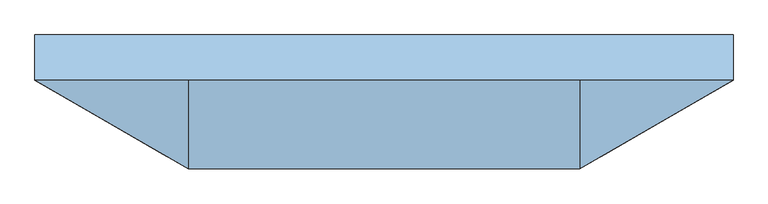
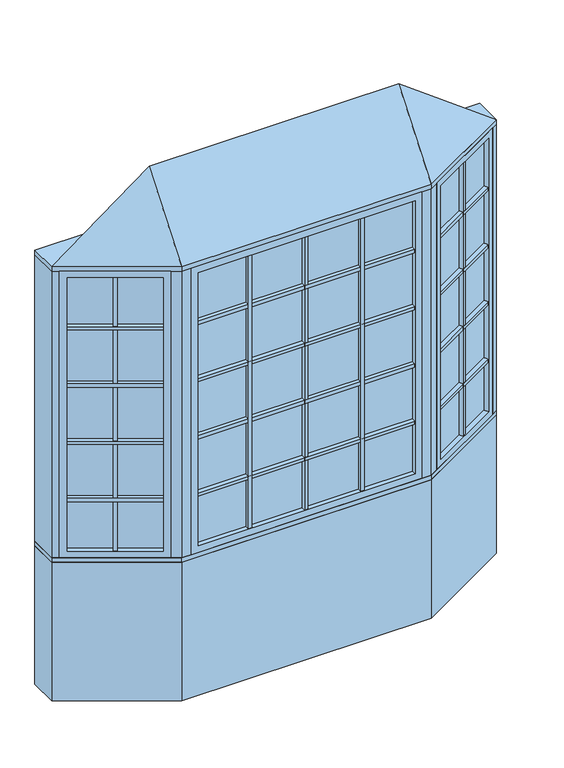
"""IFC4 building model written with IfcOpenShell, lengths in millimetres: window geometry, Pollard_Windows_Tudor Casement Bows and Bays : AML-BAY 30 AFR0616-12-500_GC."""

from ifc_helpers import new_model, si_unit, frame, origin, origin_with_axes, place, context, project, spatial, polyline, outline, extrude, faceted_brep, source, transform, mapped, element, save


def window_4662dd5e(model_context):
    return source(origin(), model_context, "Body", "SolidModel", [
        extrude(outline(polyline([(732.2305346, -327.3537343), (721.2305346, -308.3011754), (1102.1135794, -88.3982469), (1113.1135794, -107.4508058), (732.2305346, -327.3537343)])), frame((0.0, 0.0, 1110.998), z_axis=(0.0, 0.0, 1.0), x_axis=(1.0, 0.0, 0.0)), (0.0, 0.0, 1.0), 18.0),
        extrude(outline(polyline([(718.6905346, -303.9017664), (707.6905346, -284.8492075), (1088.5735794, -64.946279), (1099.5735794, -83.9988379), (718.6905346, -303.9017664)])), frame((0.0, 0.0, 1110.998), z_axis=(0.0, 0.0, 1.0), x_axis=(1.0, 0.0, 0.0)), (0.0, 0.0, 1.0), 18.0),
        extrude(outline(polyline([(732.2305346, -327.3537343), (721.2305346, -308.3011754), (1102.1135794, -88.3982469), (1113.1135794, -107.4508058), (732.2305346, -327.3537343)])), frame((0.0, 0.0, 1430.998), z_axis=(0.0, 0.0, 1.0), x_axis=(1.0, 0.0, 0.0)), (0.0, 0.0, 1.0), 18.0),
        extrude(outline(polyline([(718.6905346, -303.9017664), (707.6905346, -284.8492075), (1088.5735794, -64.946279), (1099.5735794, -83.9988379), (718.6905346, -303.9017664)])), frame((0.0, 0.0, 1430.998), z_axis=(0.0, 0.0, 1.0), x_axis=(1.0, 0.0, 0.0)), (0.0, 0.0, 1.0), 18.0),
        extrude(outline(polyline([(732.2305346, -327.3537343), (721.2305346, -308.3011754), (1102.1135794, -88.3982469), (1113.1135794, -107.4508058), (732.2305346, -327.3537343)])), frame((0.0, 0.0, 1750.998), z_axis=(0.0, 0.0, 1.0), x_axis=(1.0, 0.0, 0.0)), (0.0, 0.0, 1.0), 18.0),
        extrude(outline(polyline([(718.6905346, -303.9017664), (707.6905346, -284.8492075), (1088.5735794, -64.946279), (1099.5735794, -83.9988379), (718.6905346, -303.9017664)])), frame((0.0, 0.0, 1750.998), z_axis=(0.0, 0.0, 1.0), x_axis=(1.0, 0.0, 0.0)), (0.0, 0.0, 1.0), 18.0),
        extrude(outline(polyline([(732.2305346, -327.3537343), (721.2305346, -308.3011754), (1102.1135794, -88.3982469), (1113.1135794, -107.4508058), (732.2305346, -327.3537343)])), frame((0.0, 0.0, 2070.998), z_axis=(0.0, 0.0, 1.0), x_axis=(1.0, 0.0, 0.0)), (0.0, 0.0, 1.0), 18.0),
        extrude(outline(polyline([(718.6905346, -303.9017664), (707.6905346, -284.8492075), (1088.5735794, -64.946279), (1099.5735794, -83.9988379), (718.6905346, -303.9017664)])), frame((0.0, 0.0, 2070.998), z_axis=(0.0, 0.0, 1.0), x_axis=(1.0, 0.0, 0.0)), (0.0, 0.0, 1.0), 18.0),
        extrude(outline(polyline([(919.4662856, -193.8497112), (930.4662856, -212.9022701), (914.8778284, -221.9022701), (903.8778284, -202.8497112), (919.4662856, -193.8497112)])), frame((0.0, 0.0, 835.8628), z_axis=(0.0, 0.0, 1.0), x_axis=(1.0, 0.0, 0.0)), (0.0, 0.0, 1.0), 1528.2704),
        extrude(outline(polyline([(916.9262856, -189.4503021), (901.3378284, -198.4503021), (890.3378284, -179.3977432), (905.9262856, -170.3977432), (916.9262856, -189.4503021)])), frame((0.0, 0.0, 835.8628), z_axis=(0.0, 0.0, 1.0), x_axis=(1.0, 0.0, 0.0)), (0.0, 0.0, 1.0), 1528.2704),
        extrude(outline(polyline([(1113.112102, -82.0482469), (710.2320119, -314.6511754), (707.6920119, -310.2517664), (1110.572102, -77.6488379), (1113.112102, -82.0482469)])), frame((0.0, 0.0, 823.1628), z_axis=(0.0, 0.0, 1.0), x_axis=(1.0, 0.0, 0.0)), (0.0, 0.0, 1.0), 1553.6704),
        faceted_brep([(1102.1135794, -88.3982469, 835.8628), (1114.8135794, -110.3952922, 835.8628), (1114.8135794, -110.3952922, 2364.1332), (1102.1135794, -88.3982469, 2364.1332), (1110.572102, -77.6488379, 823.1628), (1113.112102, -82.0482469, 823.1628), (1113.112102, -82.0482469, 2376.8332), (1110.572102, -77.6488379, 2376.8332), (1086.8735794, -62.0017926, 835.8628), (1099.5735794, -83.9988379, 835.8628), (1099.5735794, -83.9988379, 2364.1332), (1086.8735794, -62.0017926, 2364.1332), (1145.8734073, -92.4628922, 799.998), (1117.9334073, -44.0693926, 799.998), (1117.9334073, -44.0693926, 2399.998), (1145.8734073, -92.4628922, 2399.998), (733.9305346, -330.2982207, 2364.1332), (721.2305346, -308.3011754, 2364.1332), (710.2320119, -314.6511754, 2376.8332), (707.6920119, -310.2517664, 2376.8332), (718.6905346, -303.9017664, 2364.1332), (705.9905346, -281.9047211, 2364.1332), (674.9307067, -299.8371211, 2399.998), (702.8707067, -348.2306207, 2399.998), (733.9305346, -330.2982207, 835.8628), (721.2305346, -308.3011754, 835.8628), (710.2320119, -314.6511754, 823.1628), (707.6920119, -310.2517664, 823.1628), (718.6905346, -303.9017664, 835.8628), (705.9905346, -281.9047211, 835.8628), (674.9307067, -299.8371211, 799.998), (702.8707067, -348.2306207, 799.998)], [[[0, 1, 2, 3]], [[4, 5, 6, 7]], [[8, 9, 10, 11]], [[12, 13, 14, 15]], [[3, 2, 16, 17]], [[7, 6, 18, 19]], [[11, 10, 20, 21]], [[15, 14, 22, 23]], [[17, 16, 24, 25]], [[19, 18, 26, 27]], [[21, 20, 28, 29]], [[23, 22, 30, 31]], [[25, 24, 1, 0]], [[5, 26, 18, 6], [3, 17, 25, 0]], [[27, 26, 5, 4]], [[7, 19, 27, 4], [9, 28, 20, 10]], [[29, 28, 9, 8]], [[13, 30, 22, 14], [11, 21, 29, 8]], [[31, 30, 13, 12]], [[15, 23, 31, 12], [1, 24, 16, 2]]]),
        extrude(outline(polyline([(306.7024182, -347.8306207), (306.7024182, -369.8306207), (288.7024182, -369.8306207), (288.7024182, -347.8306207), (306.7024182, -347.8306207)])), frame((0.0, 0.0, 835.8628), z_axis=(0.0, 0.0, 1.0), x_axis=(1.0, 0.0, 0.0)), (0.0, 0.0, 1.0), 1528.2704),
        extrude(outline(polyline([(306.7024182, -342.7506207), (288.7024182, -342.7506207), (288.7024182, -320.7506207), (306.7024182, -320.7506207), (306.7024182, -342.7506207)])), frame((0.0, 0.0, 835.8628), z_axis=(0.0, 0.0, 1.0), x_axis=(1.0, 0.0, 0.0)), (0.0, 0.0, 1.0), 1528.2704),
        extrude(outline(polyline([(-288.7024182, -347.8306207), (-288.7024182, -369.8306207), (-306.7024182, -369.8306207), (-306.7024182, -347.8306207), (-288.7024182, -347.8306207)])), frame((0.0, 0.0, 835.8628), z_axis=(0.0, 0.0, 1.0), x_axis=(1.0, 0.0, 0.0)), (0.0, 0.0, 1.0), 1528.2704),
        extrude(outline(polyline([(-288.7024182, -342.7506207), (-306.7024182, -342.7506207), (-306.7024182, -320.7506207), (-288.7024182, -320.7506207), (-288.7024182, -342.7506207)])), frame((0.0, 0.0, 835.8628), z_axis=(0.0, 0.0, 1.0), x_axis=(1.0, 0.0, 0.0)), (0.0, 0.0, 1.0), 1528.2704),
        extrude(outline(polyline([(-573.7046365, -369.8306207), (-573.7046365, -347.8306207), (573.7046365, -347.8306207), (573.7046365, -369.8306207), (-573.7046365, -369.8306207)])), frame((0.0, 0.0, 1110.998), z_axis=(0.0, 0.0, 1.0), x_axis=(1.0, 0.0, 0.0)), (0.0, 0.0, 1.0), 18.0),
        extrude(outline(polyline([(-573.7046365, -342.7506207), (-573.7046365, -320.7506207), (573.7046365, -320.7506207), (573.7046365, -342.7506207), (-573.7046365, -342.7506207)])), frame((0.0, 0.0, 1110.998), z_axis=(0.0, 0.0, 1.0), x_axis=(1.0, 0.0, 0.0)), (0.0, 0.0, 1.0), 18.0),
        extrude(outline(polyline([(-573.7046365, -369.8306207), (-573.7046365, -347.8306207), (573.7046365, -347.8306207), (573.7046365, -369.8306207), (-573.7046365, -369.8306207)])), frame((0.0, 0.0, 1430.998), z_axis=(0.0, 0.0, 1.0), x_axis=(1.0, 0.0, 0.0)), (0.0, 0.0, 1.0), 18.0),
        extrude(outline(polyline([(-573.7046365, -342.7506207), (-573.7046365, -320.7506207), (573.7046365, -320.7506207), (573.7046365, -342.7506207), (-573.7046365, -342.7506207)])), frame((0.0, 0.0, 1430.998), z_axis=(0.0, 0.0, 1.0), x_axis=(1.0, 0.0, 0.0)), (0.0, 0.0, 1.0), 18.0),
        extrude(outline(polyline([(-573.7046365, -369.8306207), (-573.7046365, -347.8306207), (573.7046365, -347.8306207), (573.7046365, -369.8306207), (-573.7046365, -369.8306207)])), frame((0.0, 0.0, 1750.998), z_axis=(0.0, 0.0, 1.0), x_axis=(1.0, 0.0, 0.0)), (0.0, 0.0, 1.0), 18.0),
        extrude(outline(polyline([(-573.7046365, -342.7506207), (-573.7046365, -320.7506207), (573.7046365, -320.7506207), (573.7046365, -342.7506207), (-573.7046365, -342.7506207)])), frame((0.0, 0.0, 1750.998), z_axis=(0.0, 0.0, 1.0), x_axis=(1.0, 0.0, 0.0)), (0.0, 0.0, 1.0), 18.0),
        extrude(outline(polyline([(-1113.1135794, -107.4508058), (-1102.1135794, -88.3982469), (-721.2305346, -308.3011754), (-732.2305346, -327.3537343), (-1113.1135794, -107.4508058)])), frame((0.0, 0.0, 1110.998), z_axis=(0.0, 0.0, 1.0), x_axis=(1.0, 0.0, 0.0)), (0.0, 0.0, 1.0), 18.0),
        extrude(outline(polyline([(-1099.5735794, -83.9988379), (-1088.5735794, -64.946279), (-707.6905346, -284.8492075), (-718.6905346, -303.9017664), (-1099.5735794, -83.9988379)])), frame((0.0, 0.0, 1110.998), z_axis=(0.0, 0.0, 1.0), x_axis=(1.0, 0.0, 0.0)), (0.0, 0.0, 1.0), 18.0),
        extrude(outline(polyline([(-1113.1135794, -107.4508058), (-1102.1135794, -88.3982469), (-721.2305346, -308.3011754), (-732.2305346, -327.3537343), (-1113.1135794, -107.4508058)])), frame((0.0, 0.0, 1430.998), z_axis=(0.0, 0.0, 1.0), x_axis=(1.0, 0.0, 0.0)), (0.0, 0.0, 1.0), 18.0),
        extrude(outline(polyline([(-1099.5735794, -83.9988379), (-1088.5735794, -64.946279), (-707.6905346, -284.8492075), (-718.6905346, -303.9017664), (-1099.5735794, -83.9988379)])), frame((0.0, 0.0, 1430.998), z_axis=(0.0, 0.0, 1.0), x_axis=(1.0, 0.0, 0.0)), (0.0, 0.0, 1.0), 18.0),
        extrude(outline(polyline([(-1113.1135794, -107.4508058), (-1102.1135794, -88.3982469), (-721.2305346, -308.3011754), (-732.2305346, -327.3537343), (-1113.1135794, -107.4508058)])), frame((0.0, 0.0, 1750.998), z_axis=(0.0, 0.0, 1.0), x_axis=(1.0, 0.0, 0.0)), (0.0, 0.0, 1.0), 18.0),
        extrude(outline(polyline([(-1099.5735794, -83.9988379), (-1088.5735794, -64.946279), (-707.6905346, -284.8492075), (-718.6905346, -303.9017664), (-1099.5735794, -83.9988379)])), frame((0.0, 0.0, 1750.998), z_axis=(0.0, 0.0, 1.0), x_axis=(1.0, 0.0, 0.0)), (0.0, 0.0, 1.0), 18.0),
        extrude(outline(polyline([(-1113.1135794, -107.4508058), (-1102.1135794, -88.3982469), (-721.2305346, -308.3011754), (-732.2305346, -327.3537343), (-1113.1135794, -107.4508058)])), frame((0.0, 0.0, 2070.998), z_axis=(0.0, 0.0, 1.0), x_axis=(1.0, 0.0, 0.0)), (0.0, 0.0, 1.0), 18.0),
        extrude(outline(polyline([(-1099.5735794, -83.9988379), (-1088.5735794, -64.946279), (-707.6905346, -284.8492075), (-718.6905346, -303.9017664), (-1099.5735794, -83.9988379)])), frame((0.0, 0.0, 2070.998), z_axis=(0.0, 0.0, 1.0), x_axis=(1.0, 0.0, 0.0)), (0.0, 0.0, 1.0), 18.0),
        extrude(outline(polyline([(-573.7046365, -369.8306207), (-573.7046365, -347.8306207), (573.7046365, -347.8306207), (573.7046365, -369.8306207), (-573.7046365, -369.8306207)])), frame((0.0, 0.0, 2070.998), z_axis=(0.0, 0.0, 1.0), x_axis=(1.0, 0.0, 0.0)), (0.0, 0.0, 1.0), 18.0),
        extrude(outline(polyline([(-573.7046365, -342.7506207), (-573.7046365, -320.7506207), (573.7046365, -320.7506207), (573.7046365, -342.7506207), (-573.7046365, -342.7506207)])), frame((0.0, 0.0, 2070.998), z_axis=(0.0, 0.0, 1.0), x_axis=(1.0, 0.0, 0.0)), (0.0, 0.0, 1.0), 18.0),
        extrude(outline(polyline([(-903.8778284, -202.8497112), (-914.8778284, -221.9022701), (-930.4662856, -212.9022701), (-919.4662856, -193.8497112), (-903.8778284, -202.8497112)])), frame((0.0, 0.0, 835.8628), z_axis=(0.0, 0.0, 1.0), x_axis=(1.0, 0.0, 0.0)), (0.0, 0.0, 1.0), 1528.2704),
        extrude(outline(polyline([(-901.3378284, -198.4503021), (-916.9262856, -189.4503021), (-905.9262856, -170.3977432), (-890.3378284, -179.3977432), (-901.3378284, -198.4503021)])), frame((0.0, 0.0, 835.8628), z_axis=(0.0, 0.0, 1.0), x_axis=(1.0, 0.0, 0.0)), (0.0, 0.0, 1.0), 1528.2704),
        extrude(outline(polyline([(9.0, -347.8306207), (9.0, -369.8306207), (-9.0, -369.8306207), (-9.0, -347.8306207), (9.0, -347.8306207)])), frame((0.0, 0.0, 835.8628), z_axis=(0.0, 0.0, 1.0), x_axis=(1.0, 0.0, 0.0)), (0.0, 0.0, 1.0), 1528.2704),
        extrude(outline(polyline([(9.0, -342.7506207), (-9.0, -342.7506207), (-9.0, -320.7506207), (9.0, -320.7506207), (9.0, -342.7506207)])), frame((0.0, 0.0, 835.8628), z_axis=(0.0, 0.0, 1.0), x_axis=(1.0, 0.0, 0.0)), (0.0, 0.0, 1.0), 1528.2704),
        extrude(outline(polyline([(-710.2320119, -314.6511754), (-1113.112102, -82.0482469), (-1110.572102, -77.6488379), (-707.6920119, -310.2517664), (-710.2320119, -314.6511754)])), frame((0.0, 0.0, 823.1628), z_axis=(0.0, 0.0, 1.0), x_axis=(1.0, 0.0, 0.0)), (0.0, 0.0, 1.0), 1553.6704),
        faceted_brep([(-718.6905346, -303.9017664, 2364.1332), (-705.9905346, -281.9047211, 2364.1332), (-705.9905346, -281.9047211, 835.8628), (-718.6905346, -303.9017664, 835.8628), (-710.2320119, -314.6511754, 2376.8332), (-707.6920119, -310.2517664, 2376.8332), (-707.6920119, -310.2517664, 823.1628), (-710.2320119, -314.6511754, 823.1628), (-733.9305346, -330.2982207, 2364.1332), (-721.2305346, -308.3011754, 2364.1332), (-721.2305346, -308.3011754, 835.8628), (-733.9305346, -330.2982207, 835.8628), (-674.9307067, -299.8371211, 2399.998), (-702.8707067, -348.2306207, 2399.998), (-702.8707067, -348.2306207, 799.998), (-674.9307067, -299.8371211, 799.998), (-1086.8735794, -62.0017926, 835.8628), (-1099.5735794, -83.9988379, 835.8628), (-1110.572102, -77.6488379, 823.1628), (-1113.112102, -82.0482469, 823.1628), (-1102.1135794, -88.3982469, 835.8628), (-1114.8135794, -110.3952922, 835.8628), (-1145.8734073, -92.4628922, 799.998), (-1117.9334073, -44.0693926, 799.998), (-1086.8735794, -62.0017926, 2364.1332), (-1099.5735794, -83.9988379, 2364.1332), (-1110.572102, -77.6488379, 2376.8332), (-1113.112102, -82.0482469, 2376.8332), (-1102.1135794, -88.3982469, 2364.1332), (-1114.8135794, -110.3952922, 2364.1332), (-1145.8734073, -92.4628922, 2399.998), (-1117.9334073, -44.0693926, 2399.998)], [[[0, 1, 2, 3]], [[4, 5, 6, 7]], [[8, 9, 10, 11]], [[12, 13, 14, 15]], [[3, 2, 16, 17]], [[7, 6, 18, 19]], [[11, 10, 20, 21]], [[15, 14, 22, 23]], [[17, 16, 24, 25]], [[19, 18, 26, 27]], [[21, 20, 28, 29]], [[23, 22, 30, 31]], [[15, 23, 31, 12], [1, 24, 16, 2]], [[25, 24, 1, 0]], [[5, 26, 18, 6], [3, 17, 25, 0]], [[27, 26, 5, 4]], [[7, 19, 27, 4], [9, 28, 20, 10]], [[29, 28, 9, 8]], [[13, 30, 22, 14], [11, 21, 29, 8]], [[31, 30, 13, 12]]]),
        extrude(outline(polyline([(586.4046365, -347.8306207), (-586.4046365, -347.8306207), (-586.4046365, -342.7506207), (586.4046365, -342.7506207), (586.4046365, -347.8306207)])), frame((0.0, 0.0, 823.1628), z_axis=(0.0, 0.0, 1.0), x_axis=(1.0, 0.0, 0.0)), (0.0, 0.0, 1.0), 1553.6704),
        faceted_brep([(573.7046365, -347.8306207, 835.8628), (573.7046365, -373.2306207, 835.8628), (573.7046365, -373.2306207, 2364.1332), (573.7046365, -347.8306207, 2364.1332), (586.4046365, -342.7506207, 823.1628), (586.4046365, -347.8306207, 823.1628), (586.4046365, -347.8306207, 2376.8332), (586.4046365, -342.7506207, 2376.8332), (573.7046365, -317.3506207, 835.8628), (573.7046365, -342.7506207, 835.8628), (573.7046365, -342.7506207, 2364.1332), (573.7046365, -317.3506207, 2364.1332), (609.5694365, -373.2306207, 799.998), (609.5694365, -317.3506207, 799.998), (609.5694365, -317.3506207, 2399.998), (609.5694365, -373.2306207, 2399.998), (-573.7046365, -373.2306207, 2364.1332), (-573.7046365, -347.8306207, 2364.1332), (-586.4046365, -347.8306207, 2376.8332), (-586.4046365, -342.7506207, 2376.8332), (-573.7046365, -342.7506207, 2364.1332), (-573.7046365, -317.3506207, 2364.1332), (-609.5694365, -317.3506207, 2399.998), (-609.5694365, -373.2306207, 2399.998), (-573.7046365, -373.2306207, 835.8628), (-573.7046365, -347.8306207, 835.8628), (-586.4046365, -347.8306207, 823.1628), (-586.4046365, -342.7506207, 823.1628), (-573.7046365, -342.7506207, 835.8628), (-573.7046365, -317.3506207, 835.8628), (-609.5694365, -317.3506207, 799.998), (-609.5694365, -373.2306207, 799.998)], [[[0, 1, 2, 3]], [[4, 5, 6, 7]], [[8, 9, 10, 11]], [[12, 13, 14, 15]], [[3, 2, 16, 17]], [[7, 6, 18, 19]], [[11, 10, 20, 21]], [[15, 14, 22, 23]], [[17, 16, 24, 25]], [[19, 18, 26, 27]], [[21, 20, 28, 29]], [[23, 22, 30, 31]], [[15, 23, 31, 12], [1, 24, 16, 2]], [[25, 24, 1, 0]], [[5, 26, 18, 6], [3, 17, 25, 0]], [[27, 26, 5, 4]], [[7, 19, 27, 4], [9, 28, 20, 10]], [[29, 28, 9, 8]], [[13, 30, 22, 14], [11, 21, 29, 8]], [[31, 30, 13, 12]]]),
        faceted_brep([(1176.5, -74.7806207, 2425.398), (659.5694365, -373.2306207, 2425.398), (-659.5694365, -373.2306207, 2425.398), (-1176.5, -74.7806207, 2425.398), (-659.5694365, -74.7806207, 2806.398), (659.5694365, -74.7806207, 2806.398)], [[[0, 1, 2, 3]], [[3, 2, 4]], [[2, 1, 5, 4]], [[1, 0, 5]], [[0, 3, 4, 5]]]),
        extrude(outline(polyline([(-1176.5, 77.6193793), (1176.5, 77.6193793), (1176.5, -74.7806207), (659.5694365, -373.2306207), (-659.5694365, -373.2306207), (-1176.5, -74.7806207), (-1176.5, 77.6193793)])), frame((0.0, 0.0, 2399.998), z_axis=(0.0, 0.0, 1.0), x_axis=(1.0, 0.0, 0.0)), (0.0, 0.0, 1.0), 25.4),
        extrude(outline(polyline([(-1176.5, -74.7806207), (-1176.5, 77.6193793), (-1135.6645431, 77.6193793), (-1135.6645431, -74.7806207), (-1145.8734073, -92.4628922), (-1176.5, -74.7806207)])), frame((0.0, 0.0, 799.998), z_axis=(0.0, 0.0, 1.0), x_axis=(1.0, 0.0, 0.0)), (0.0, 0.0, 1.0), 1600.0),
        extrude(outline(polyline([(1176.5, 77.6193793), (1176.5, -74.7806207), (1145.8734073, -92.4628922), (1135.6645431, -74.7806207), (1135.6645431, 77.6193793), (1176.5, 77.6193793)])), frame((0.0, 0.0, 799.998), z_axis=(0.0, 0.0, 1.0), x_axis=(1.0, 0.0, 0.0)), (0.0, 0.0, 1.0), 1600.0),
        extrude(outline(polyline([(659.5694365, -373.2306207), (609.5694365, -373.2306207), (609.5694365, -323.2306207), (646.1719769, -323.2306207), (677.8707067, -304.9293505), (702.8707067, -348.2306207), (659.5694365, -373.2306207)])), frame((0.0, 0.0, 799.998), z_axis=(0.0, 0.0, 1.0), x_axis=(1.0, 0.0, 0.0)), (0.0, 0.0, 1.0), 1600.0),
        extrude(outline(polyline([(-659.5694365, -373.2306207), (-702.8707067, -348.2306207), (-677.8707067, -304.9293505), (-646.1719769, -323.2306207), (-609.5694365, -323.2306207), (-609.5694365, -373.2306207), (-659.5694365, -373.2306207)])), frame((0.0, 0.0, 799.998), z_axis=(0.0, 0.0, 1.0), x_axis=(1.0, 0.0, 0.0)), (0.0, 0.0, 1.0), 1600.0),
        extrude(outline(polyline([(-659.5694365, -373.2306207), (-1176.5, -74.7806207), (-1176.5, 77.6193793), (-1135.6645431, 77.6193793), (-618.7339796, -220.8306207), (618.7339796, -220.8306207), (1135.6645431, 77.6193793), (1176.5, 77.6193793), (1176.5, -74.7806207), (659.5694365, -373.2306207), (-659.5694365, -373.2306207)])), frame((0.0, 0.0, 774.598), z_axis=(0.0, 0.0, 1.0), x_axis=(1.0, 0.0, 0.0)), (0.0, 0.0, 1.0), 25.4),
        extrude(outline(polyline([(-1176.5, -74.7806207), (-1176.5, 77.6193793), (-1135.6645431, 77.6193793), (-618.7339796, -220.8306207), (618.7339796, -220.8306207), (1135.6645431, 77.6193793), (1176.5, 77.6193793), (1176.5, -74.7806207), (659.5694365, -373.2306207), (-659.5694365, -373.2306207), (-1176.5, -74.7806207)])), origin_with_axes(), (0.0, 0.0, 1.0), 774.598),
    ])


if __name__ == "__main__":
    model = new_model("IFC4")
    model_context = context("Model", 3, world=origin())
    ifc_project = project(units=[si_unit("LENGTHUNIT", "METRE", prefix="MILLI")], contexts=[model_context])
    site = spatial("IfcSite", under=ifc_project)
    building = spatial("IfcBuilding", under=site)
    placement = place(None, origin())
    window_shape = window_4662dd5e(model_context)
    element("IfcWindow", 1, ObjectType="Pollard_Windows_Tudor Casement Bows and Bays : AML-BAY 30 AFR0616-12-500_GC", at=placement, inside=building, context=model_context, shape_type="MappedRepresentation", body=[
        mapped(window_shape, transform((0.0, 0.0, 0.0), x_axis=(1.0, 0.0, 0.0), y_axis=(0.0, 1.0, 0.0), z_axis=(0.0, 0.0, 1.0))),
    ])
    save(model, "model.ifc")
